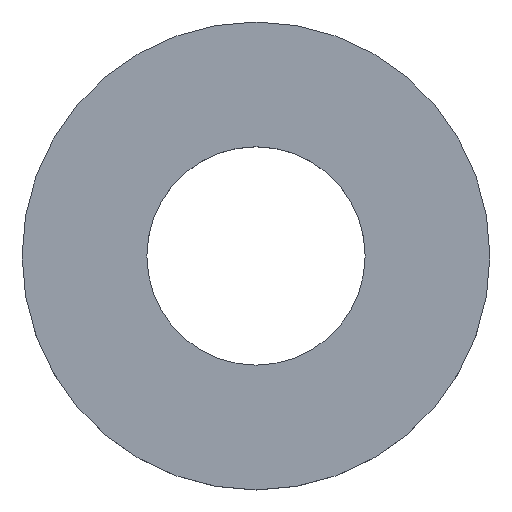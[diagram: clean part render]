
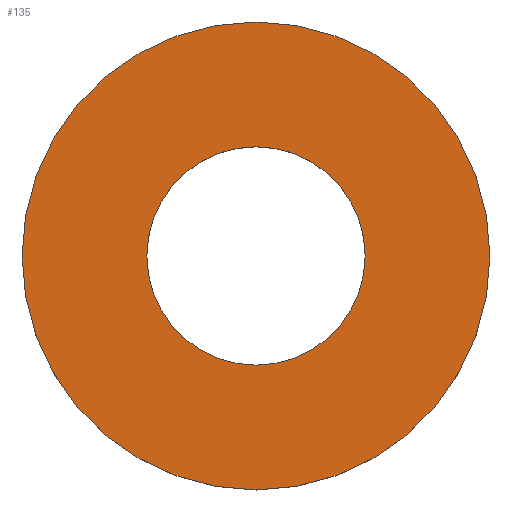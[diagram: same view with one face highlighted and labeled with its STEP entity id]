
A CAD part, top view. The second image highlights one B-rep face of the part: STEP entity #135.
In plain terms, the highlighted planar face has unit normal (0, 0, 1).
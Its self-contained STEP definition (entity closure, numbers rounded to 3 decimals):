
#73=CARTESIAN_POINT('',(4.2,0.,2.1));
#74=VERTEX_POINT('',#73);
#75=CARTESIAN_POINT('',(0.0,0.0,2.1));
#76=DIRECTION('',(0.0,0.0,-1.0));
#77=DIRECTION('',(-1.0,0.0,0.0));
#78=AXIS2_PLACEMENT_3D('',#75,#76,#77);
#79=CIRCLE('',#78,4.2);
#80=EDGE_CURVE('',#74,#74,#79,.T.);
#101=CARTESIAN_POINT('',(9.0,0.,2.1));
#102=VERTEX_POINT('',#101);
#103=CARTESIAN_POINT('',(0.0,0.0,2.1));
#104=DIRECTION('',(0.0,0.0,-1.0));
#105=DIRECTION('',(-1.0,0.0,0.0));
#106=AXIS2_PLACEMENT_3D('',#103,#104,#105);
#107=CIRCLE('',#106,9.0);
#108=EDGE_CURVE('',#102,#102,#107,.T.);
#124=CARTESIAN_POINT('',(0.0,0.0,2.1));
#125=DIRECTION('',(0.0,0.0,-1.0));
#126=DIRECTION('',(-1.0,0.0,0.0));
#127=AXIS2_PLACEMENT_3D('',#124,#125,#126);
#128=PLANE('',#127);
#129=ORIENTED_EDGE('',*,*,#108,.F.);
#130=EDGE_LOOP('',(#129));
#131=FACE_OUTER_BOUND('',#130,.T.);
#132=ORIENTED_EDGE('',*,*,#80,.T.);
#133=EDGE_LOOP('',(#132));
#134=FACE_BOUND('',#133,.T.);
#135=ADVANCED_FACE('',(#131,#134),#128,.F.);
